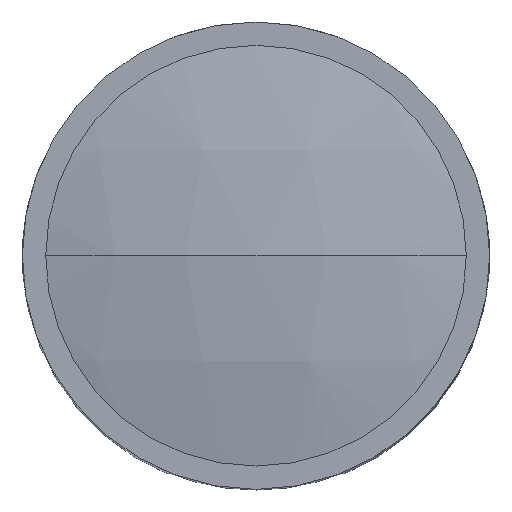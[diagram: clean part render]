
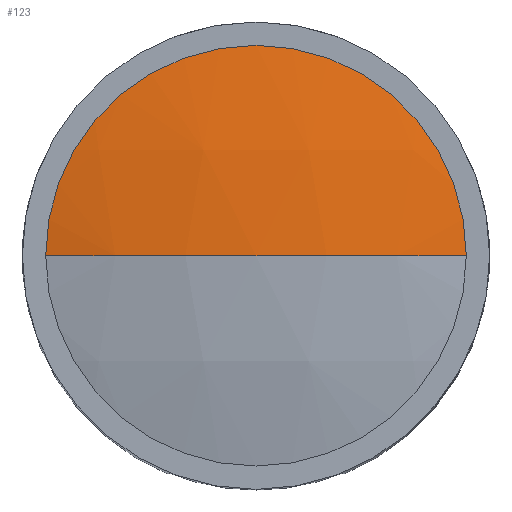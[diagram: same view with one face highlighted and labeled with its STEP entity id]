
A CAD part, top view. The second image highlights one B-rep face of the part: STEP entity #123.
In plain terms, the highlighted spherical face has radius 8.2 mm.
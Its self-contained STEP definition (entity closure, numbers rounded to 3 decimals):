
#61 = ORIENTED_EDGE ( 'NONE', *, *, #116, .F. ) ;
#81 = EDGE_CURVE ( 'NONE', #117, #120, #404, .T. ) ;
#82 = ORIENTED_EDGE ( 'NONE', *, *, #83, .F. ) ;
#83 = EDGE_CURVE ( 'NONE', #118, #120, #399, .T. ) ;
#116 = EDGE_CURVE ( 'NONE', #117, #118, #417, .T. ) ;
#117 = VERTEX_POINT ( 'NONE', #413 ) ;
#118 = VERTEX_POINT ( 'NONE', #412 ) ;
#119 = ORIENTED_EDGE ( 'NONE', *, *, #81, .T. ) ;
#120 = VERTEX_POINT ( 'NONE', #411 ) ;
#123 = ADVANCED_FACE ( 'NONE', ( #441 ), #522, .T. ) ;
#124 = EDGE_LOOP ( 'NONE', ( #61, #119, #82 ) ) ;
#395 = DIRECTION ( 'NONE',  ( 0., 0., -1. ) ) ;
#396 = DIRECTION ( 'NONE',  ( 0., -1., 0. ) ) ;
#397 = CARTESIAN_POINT ( 'NONE',  ( 0., 9., 0. ) ) ;
#398 = AXIS2_PLACEMENT_3D ( 'NONE', #397, #396, #395 ) ;
#399 = CIRCLE ( 'NONE', #398, 1.8 ) ;
#400 = DIRECTION ( 'NONE',  ( -1., 0., 0. ) ) ;
#401 = DIRECTION ( 'NONE',  ( 0., 0., -1. ) ) ;
#402 = CARTESIAN_POINT ( 'NONE',  ( 0., 1., 0. ) ) ;
#403 = AXIS2_PLACEMENT_3D ( 'NONE', #402, #401, #400 ) ;
#404 = CIRCLE ( 'NONE', #403, 8.2 ) ;
#411 = CARTESIAN_POINT ( 'NONE',  ( 1.8, 9., 0. ) ) ;
#412 = CARTESIAN_POINT ( 'NONE',  ( -1.8, 9., 0. ) ) ;
#413 = CARTESIAN_POINT ( 'NONE',  ( 0., 9.2, 0. ) ) ;
#414 = DIRECTION ( 'NONE',  ( 1., 0., 0. ) ) ;
#415 = DIRECTION ( 'NONE',  ( 0., 0., 1. ) ) ;
#416 = AXIS2_PLACEMENT_3D ( 'NONE', #421, #415, #414 ) ;
#417 = CIRCLE ( 'NONE', #416, 8.2 ) ;
#421 = CARTESIAN_POINT ( 'NONE',  ( 0., 1., 0. ) ) ;
#440 = AXIS2_PLACEMENT_3D ( 'NONE', #510, #528, #527 ) ;
#441 = FACE_OUTER_BOUND ( 'NONE', #124, .T. ) ;
#510 = CARTESIAN_POINT ( 'NONE',  ( 0., 1., 0. ) ) ;
#522 = SPHERICAL_SURFACE ( 'NONE', #440, 8.2 ) ;
#527 = DIRECTION ( 'NONE',  ( -1., 0., 0. ) ) ;
#528 = DIRECTION ( 'NONE',  ( 0., 0., -1. ) ) ;
